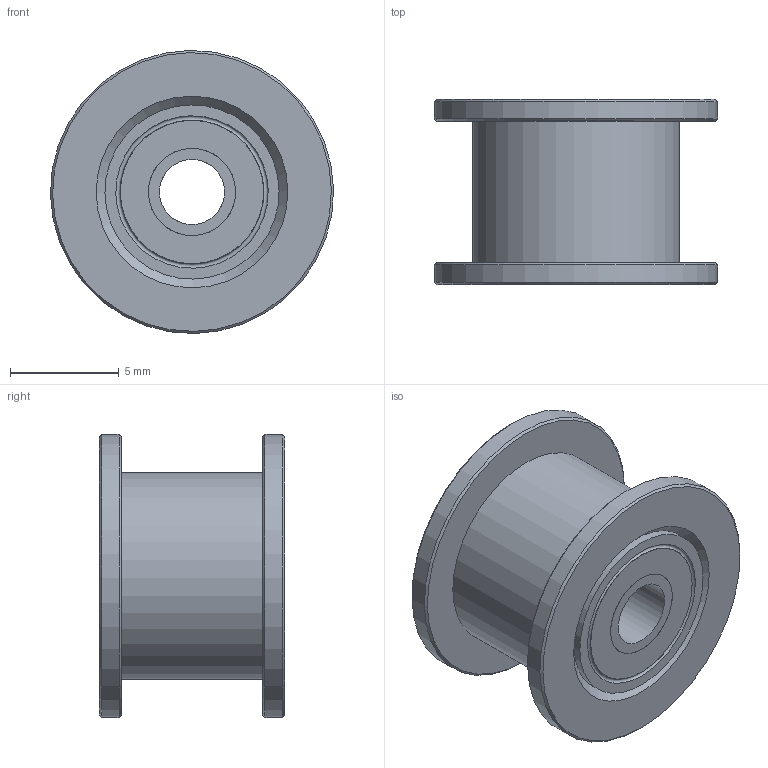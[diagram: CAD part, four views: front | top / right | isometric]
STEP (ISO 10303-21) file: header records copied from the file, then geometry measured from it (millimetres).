
FILE_DESCRIPTION(('FreeCAD Model'),'2;1');
FILE_NAME('Open CASCADE Shape Model','2021-05-04T16:26:09',('Author'),( ''),'Open CASCADE STEP processor 7.5','FreeCAD','Unknown');
FILE_SCHEMA(('AUTOMOTIVE_DESIGN { 1 0 10303 214 1 1 1 1 }'));
Length unit declared in the file: millimetre
Products named in the file (9): GT2 Idler Pulley, Configurable, Pulleys Lined Up in Assembly; GT2 Idler Pulley, Configurable_16T W6 B3 Without T; Body, GT2 Idler Pulley, Configurable_16T W6 B3 Without T; Bearing Subassy, GT2 Idler Pulley, Configurable_3 mm Bore; Bearing Outer Ring, GT2 Idler Pulley, Configurable_3 mm Bore; Bearing Inner Ring, GT2 Idler Pulley, Configurable_3 mm Bore; Bearing Seal, GT2 Idler Pulley, Configurable_3 mm Bore; Bearing Ball, GT2 Idler Pulley, Configurable_2 mm; Bearing Subassy, GT2 Idler Pulley, Configurable_3 mm Bore001
Assembly tree (24 placements, depth 4):
  GT2 Idler Pulley, Configurable, Pulleys Lined Up in Assembly
    GT2 Idler Pulley, Configurable_16T W6 B3 Without T
      Body, GT2 Idler Pulley, Configurable_16T W6 B3 Without T
      Bearing Subassy, GT2 Idler Pulley, Configurable_3 mm Bore
        Bearing Outer Ring, GT2 Idler Pulley, Configurable_3 mm Bore
        Bearing Inner Ring, GT2 Idler Pulley, Configurable_3 mm Bore
        Bearing Seal, GT2 Idler Pulley, Configurable_3 mm Bore  x2
        Bearing Ball, GT2 Idler Pulley, Configurable_2 mm  x6
      Bearing Subassy, GT2 Idler Pulley, Configurable_3 mm Bore001
        Bearing Outer Ring, GT2 Idler Pulley, Configurable_3 mm Bore
        Bearing Inner Ring, GT2 Idler Pulley, Configurable_3 mm Bore
        Bearing Seal, GT2 Idler Pulley, Configurable_3 mm Bore  x2
        Bearing Ball, GT2 Idler Pulley, Configurable_2 mm  x6
Bounding box: 13 x 8.5 x 13 mm (x, y, z)
Volume: 523.2 mm3; surface area: 1846.1 mm2
Topology: 21 solids, 21 shells, 78 faces, 157 edges, 101 vertices
Faces by surface type: cylinder 26, plane 22, torus 12, sphere 12, cone 6
Full cylindrical faces by diameter (mm): 3 x2, 4 x8, 7 x9, 8 x4, 9.5 x1, 13 x2
Entity records: 2336 total; most frequent: CARTESIAN_POINT 393, DIRECTION 337, ORIENTED_EDGE 134, PCURVE 134, DEFINITIONAL_REPRESENTATION 134, LINE 108, VECTOR 108, AXIS2_PLACEMENT_3D 105
